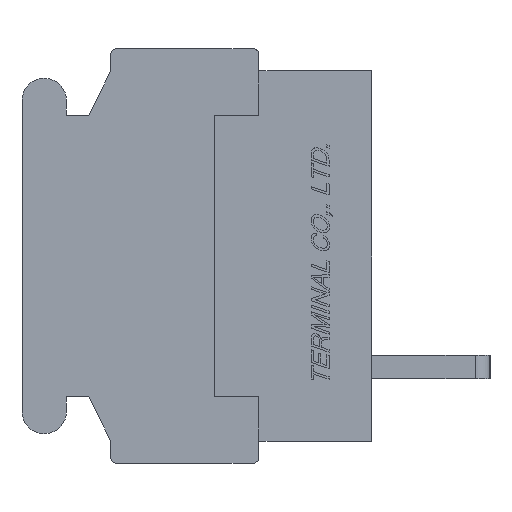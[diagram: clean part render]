
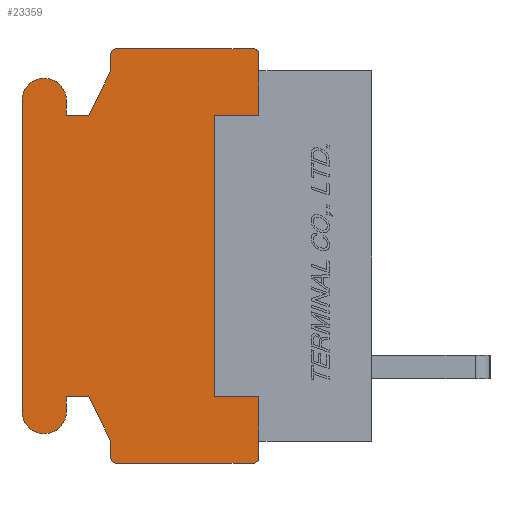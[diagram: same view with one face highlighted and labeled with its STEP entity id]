
A CAD part, left-side view. The second image highlights one B-rep face of the part: STEP entity #23359.
In plain terms, the highlighted planar face has unit normal (-1, 0, 0).
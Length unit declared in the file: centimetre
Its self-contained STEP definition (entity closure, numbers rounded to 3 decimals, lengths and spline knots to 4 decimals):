
#1244=CIRCLE('',#39617,0.02);
#1245=CIRCLE('',#39621,0.02);
#1246=CIRCLE('',#39624,0.02);
#1247=CIRCLE('',#39630,0.075);
#1248=CIRCLE('',#39633,0.075);
#1249=CIRCLE('',#39639,0.02);
#3232=VERTEX_POINT('',#36550);
#3233=VERTEX_POINT('',#36552);
#3234=VERTEX_POINT('',#36556);
#3235=VERTEX_POINT('',#36560);
#3236=VERTEX_POINT('',#36562);
#3237=VERTEX_POINT('',#36566);
#3238=VERTEX_POINT('',#36570);
#3239=VERTEX_POINT('',#36574);
#3240=VERTEX_POINT('',#36578);
#3241=VERTEX_POINT('',#36582);
#3242=VERTEX_POINT('',#36586);
#3243=VERTEX_POINT('',#36590);
#3244=VERTEX_POINT('',#36594);
#3245=VERTEX_POINT('',#36598);
#3246=VERTEX_POINT('',#36602);
#3247=VERTEX_POINT('',#36606);
#3248=VERTEX_POINT('',#36610);
#3249=VERTEX_POINT('',#36614);
#3250=VERTEX_POINT('',#36618);
#3251=VERTEX_POINT('',#36622);
#3252=VERTEX_POINT('',#36628);
#3253=VERTEX_POINT('',#36630);
#3254=VERTEX_POINT('',#36632);
#3255=VERTEX_POINT('',#36634);
#5738=VECTOR('',#28811,1.);
#5740=VECTOR('',#28814,1.);
#5744=VECTOR('',#28823,1.);
#5747=VECTOR('',#28831,1.);
#5749=VECTOR('',#28834,1.);
#5751=VECTOR('',#28837,1.);
#5753=VECTOR('',#28840,1.);
#5756=VECTOR('',#28848,1.);
#5759=VECTOR('',#28856,1.);
#5761=VECTOR('',#28859,1.);
#5763=VECTOR('',#28862,1.);
#5765=VECTOR('',#28865,1.);
#5767=VECTOR('',#28872,1.);
#5768=VECTOR('',#28874,1.);
#5769=VECTOR('',#28875,1.);
#5770=VECTOR('',#28876,1.);
#5771=VECTOR('',#28877,1.);
#5772=VECTOR('',#28878,1.);
#8322=LINE('',#36557,#5738);
#8324=LINE('',#36561,#5740);
#8328=LINE('',#36571,#5744);
#8331=LINE('',#36579,#5747);
#8333=LINE('',#36583,#5749);
#8335=LINE('',#36587,#5751);
#8337=LINE('',#36591,#5753);
#8340=LINE('',#36599,#5756);
#8343=LINE('',#36607,#5759);
#8345=LINE('',#36611,#5761);
#8347=LINE('',#36615,#5763);
#8349=LINE('',#36619,#5765);
#8351=LINE('',#36625,#5767);
#8352=LINE('',#36627,#5768);
#8353=LINE('',#36629,#5769);
#8354=LINE('',#36631,#5770);
#8355=LINE('',#36633,#5771);
#8356=LINE('',#36635,#5772);
#11758=EDGE_CURVE('',#3232,#3233,#1244,.T.);
#11761=EDGE_CURVE('',#3234,#3232,#8322,.T.);
#11763=EDGE_CURVE('',#3235,#3236,#8324,.T.);
#11766=EDGE_CURVE('',#3237,#3235,#1245,.T.);
#11768=EDGE_CURVE('',#3238,#3237,#8328,.T.);
#11770=EDGE_CURVE('',#3239,#3238,#1246,.T.);
#11772=EDGE_CURVE('',#3240,#3239,#8331,.T.);
#11774=EDGE_CURVE('',#3241,#3240,#8333,.T.);
#11776=EDGE_CURVE('',#3242,#3241,#8335,.T.);
#11778=EDGE_CURVE('',#3243,#3242,#8337,.T.);
#11780=EDGE_CURVE('',#3244,#3243,#1247,.T.);
#11782=EDGE_CURVE('',#3245,#3244,#8340,.T.);
#11784=EDGE_CURVE('',#3246,#3245,#1248,.T.);
#11786=EDGE_CURVE('',#3247,#3246,#8343,.T.);
#11788=EDGE_CURVE('',#3248,#3247,#8345,.T.);
#11790=EDGE_CURVE('',#3249,#3248,#8347,.T.);
#11792=EDGE_CURVE('',#3250,#3249,#8349,.T.);
#11794=EDGE_CURVE('',#3251,#3250,#1249,.T.);
#11795=EDGE_CURVE('',#3233,#3251,#8351,.T.);
#11796=EDGE_CURVE('',#3252,#3236,#8352,.T.);
#11797=EDGE_CURVE('',#3234,#3253,#8353,.T.);
#11798=EDGE_CURVE('',#3253,#3254,#8354,.T.);
#11799=EDGE_CURVE('',#3254,#3255,#8355,.T.);
#11800=EDGE_CURVE('',#3255,#3252,#8356,.T.);
#18292=ORIENTED_EDGE('',*,*,#11796,.T.);
#18293=ORIENTED_EDGE('',*,*,#11763,.F.);
#18294=ORIENTED_EDGE('',*,*,#11766,.F.);
#18295=ORIENTED_EDGE('',*,*,#11768,.F.);
#18296=ORIENTED_EDGE('',*,*,#11770,.F.);
#18297=ORIENTED_EDGE('',*,*,#11772,.F.);
#18298=ORIENTED_EDGE('',*,*,#11774,.F.);
#18299=ORIENTED_EDGE('',*,*,#11776,.F.);
#18300=ORIENTED_EDGE('',*,*,#11778,.F.);
#18301=ORIENTED_EDGE('',*,*,#11780,.F.);
#18302=ORIENTED_EDGE('',*,*,#11782,.F.);
#18303=ORIENTED_EDGE('',*,*,#11784,.F.);
#18304=ORIENTED_EDGE('',*,*,#11786,.F.);
#18305=ORIENTED_EDGE('',*,*,#11788,.F.);
#18306=ORIENTED_EDGE('',*,*,#11790,.F.);
#18307=ORIENTED_EDGE('',*,*,#11792,.F.);
#18308=ORIENTED_EDGE('',*,*,#11794,.F.);
#18309=ORIENTED_EDGE('',*,*,#11795,.F.);
#18310=ORIENTED_EDGE('',*,*,#11758,.F.);
#18311=ORIENTED_EDGE('',*,*,#11761,.F.);
#18312=ORIENTED_EDGE('',*,*,#11797,.T.);
#18313=ORIENTED_EDGE('',*,*,#11798,.T.);
#18314=ORIENTED_EDGE('',*,*,#11799,.T.);
#18315=ORIENTED_EDGE('',*,*,#11800,.T.);
#20599=EDGE_LOOP('',(#18292,#18293,#18294,#18295,#18296,#18297,#18298,#18299,
#18300,#18301,#18302,#18303,#18304,#18305,#18306,#18307,#18308,#18309,#18310,
#18311,#18312,#18313,#18314,#18315));
#22017=FACE_BOUND('',#20599,.T.);
#23359=ADVANCED_FACE('',(#22017),#24331,.F.);
#24331=PLANE('',#39641);
#28806=DIRECTION('',(1.,0.,0.));
#28807=DIRECTION('',(0.,0.,-0.02));
#28811=DIRECTION('',(0.,0.,-1.));
#28814=DIRECTION('',(0.,0.,-1.));
#28819=DIRECTION('',(1.,0.,0.));
#28820=DIRECTION('',(0.,0.,-0.02));
#28823=DIRECTION('',(0.,-1.,0.));
#28827=DIRECTION('',(1.,0.,0.));
#28828=DIRECTION('',(0.,0.,-0.02));
#28831=DIRECTION('',(0.,0.,1.));
#28834=DIRECTION('',(0.,-0.447,0.894));
#28837=DIRECTION('',(0.,-1.,0.));
#28840=DIRECTION('',(0.,0.,-1.));
#28844=DIRECTION('',(1.,0.,0.));
#28845=DIRECTION('',(0.,0.,-0.075));
#28848=DIRECTION('',(0.,0.,1.));
#28852=DIRECTION('',(1.,0.,0.));
#28853=DIRECTION('',(0.,0.,-0.075));
#28856=DIRECTION('',(0.,0.,-1.));
#28859=DIRECTION('',(0.,1.,0.));
#28862=DIRECTION('',(0.,0.447,0.894));
#28865=DIRECTION('',(0.,0.,1.));
#28869=DIRECTION('',(1.,0.,0.));
#28870=DIRECTION('',(0.,0.,-0.02));
#28872=DIRECTION('',(0.,1.,0.));
#28873=DIRECTION('',(1.,0.,0.));
#28874=DIRECTION('',(0.,0.,1.));
#28875=DIRECTION('',(0.,0.,1.));
#28876=DIRECTION('',(0.,1.,0.));
#28877=DIRECTION('',(0.,0.,1.));
#28878=DIRECTION('',(0.,-1.,0.));
#36550=CARTESIAN_POINT('',(-0.762,0.38,-0.68));
#36551=CARTESIAN_POINT('',(-0.762,0.4,-0.68));
#36552=CARTESIAN_POINT('',(-0.762,0.4,-0.7));
#36556=CARTESIAN_POINT('',(-0.762,0.38,-0.625));
#36557=CARTESIAN_POINT('',(-0.762,0.38,-0.625));
#36560=CARTESIAN_POINT('',(-0.762,0.38,0.68));
#36561=CARTESIAN_POINT('',(-0.762,0.38,0.68));
#36562=CARTESIAN_POINT('',(-0.762,0.38,0.625));
#36566=CARTESIAN_POINT('',(-0.762,0.4,0.7));
#36567=CARTESIAN_POINT('',(-0.762,0.4,0.68));
#36570=CARTESIAN_POINT('',(-0.762,0.86,0.7));
#36571=CARTESIAN_POINT('',(-0.762,0.86,0.7));
#36574=CARTESIAN_POINT('',(-0.762,0.88,0.68));
#36575=CARTESIAN_POINT('',(-0.762,0.86,0.68));
#36578=CARTESIAN_POINT('',(-0.762,0.88,0.625));
#36579=CARTESIAN_POINT('',(-0.762,0.88,0.625));
#36582=CARTESIAN_POINT('',(-0.762,0.955,0.475));
#36583=CARTESIAN_POINT('',(-0.762,0.955,0.475));
#36586=CARTESIAN_POINT('',(-0.762,1.03,0.475));
#36587=CARTESIAN_POINT('',(-0.762,1.03,0.475));
#36590=CARTESIAN_POINT('',(-0.762,1.03,0.525));
#36591=CARTESIAN_POINT('',(-0.762,1.03,0.525));
#36594=CARTESIAN_POINT('',(-0.762,1.18,0.525));
#36595=CARTESIAN_POINT('',(-0.762,1.105,0.525));
#36598=CARTESIAN_POINT('',(-0.762,1.18,-0.525));
#36599=CARTESIAN_POINT('',(-0.762,1.18,-0.525));
#36602=CARTESIAN_POINT('',(-0.762,1.03,-0.525));
#36603=CARTESIAN_POINT('',(-0.762,1.105,-0.525));
#36606=CARTESIAN_POINT('',(-0.762,1.03,-0.475));
#36607=CARTESIAN_POINT('',(-0.762,1.03,-0.475));
#36610=CARTESIAN_POINT('',(-0.762,0.955,-0.475));
#36611=CARTESIAN_POINT('',(-0.762,0.955,-0.475));
#36614=CARTESIAN_POINT('',(-0.762,0.88,-0.625));
#36615=CARTESIAN_POINT('',(-0.762,0.88,-0.625));
#36618=CARTESIAN_POINT('',(-0.762,0.88,-0.68));
#36619=CARTESIAN_POINT('',(-0.762,0.88,-0.68));
#36622=CARTESIAN_POINT('',(-0.762,0.86,-0.7));
#36623=CARTESIAN_POINT('',(-0.762,0.86,-0.68));
#36625=CARTESIAN_POINT('',(-0.762,0.4,-0.7));
#36626=CARTESIAN_POINT('',(-0.762,0.6059,0.));
#36627=CARTESIAN_POINT('',(-0.762,0.38,0.475));
#36628=CARTESIAN_POINT('',(-0.762,0.38,0.475));
#36629=CARTESIAN_POINT('',(-0.762,0.38,-0.625));
#36630=CARTESIAN_POINT('',(-0.762,0.38,-0.475));
#36631=CARTESIAN_POINT('',(-0.762,0.38,-0.475));
#36632=CARTESIAN_POINT('',(-0.762,0.53,-0.475));
#36633=CARTESIAN_POINT('',(-0.762,0.53,-0.475));
#36634=CARTESIAN_POINT('',(-0.762,0.53,0.475));
#36635=CARTESIAN_POINT('',(-0.762,0.53,0.475));
#39617=AXIS2_PLACEMENT_3D('',#36551,#28806,#28807);
#39621=AXIS2_PLACEMENT_3D('',#36567,#28819,#28820);
#39624=AXIS2_PLACEMENT_3D('',#36575,#28827,#28828);
#39630=AXIS2_PLACEMENT_3D('',#36595,#28844,#28845);
#39633=AXIS2_PLACEMENT_3D('',#36603,#28852,#28853);
#39639=AXIS2_PLACEMENT_3D('',#36623,#28869,#28870);
#39641=AXIS2_PLACEMENT_3D('',#36626,#28873,$);
